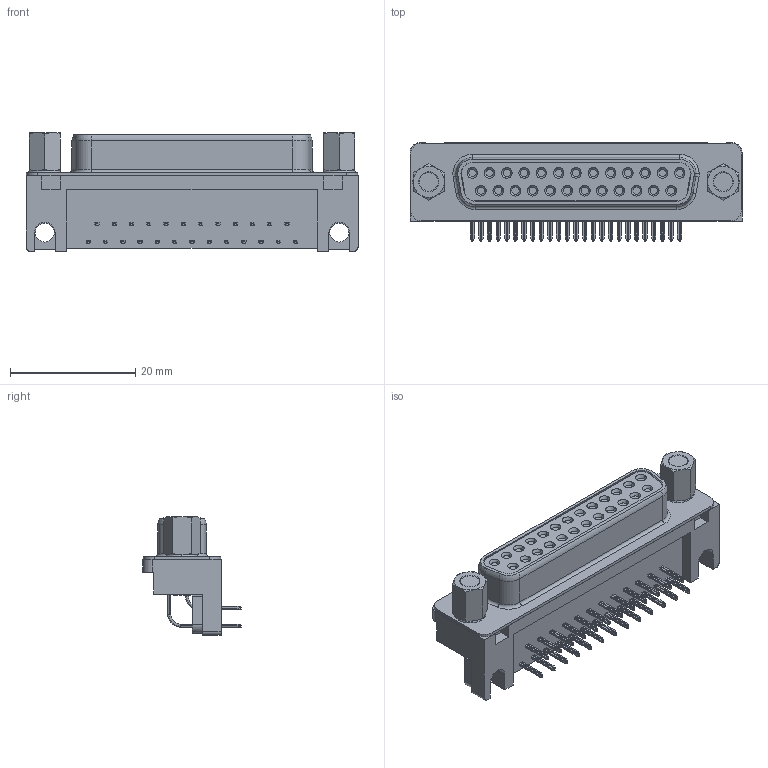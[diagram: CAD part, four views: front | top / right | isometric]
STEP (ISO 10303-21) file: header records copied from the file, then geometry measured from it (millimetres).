
FILE_DESCRIPTION (( 'STEP AP203' ), '1' );
FILE_NAME ('17LE-13250-27(D3BB)-FA.STEP', '2022-02-07T08:54:13', ( '' ), ( '' ), 'SwSTEP 2.0', 'SolidWorks 2018', '' );
FILE_SCHEMA (( 'CONFIG_CONTROL_DESIGN' ));
Length unit declared in the file: millimetre
Products named in the file (1): 17LE-13250-27(D3BB)-FA
Bounding box: 53.04 x 15.7 x 19 mm (x, y, z)
Volume: 5917.7 mm3; surface area: 6070 mm2
Topology: 1 solids, 5 shells, 1438 faces, 3799 edges, 2430 vertices
Faces by surface type: plane 696, cylinder 521, torus 150, cone 71
Entity records: 45448 total; most frequent: CARTESIAN_POINT 8956, DIRECTION 7783, ORIENTED_EDGE 7598, EDGE_CURVE 3799, AXIS2_PLACEMENT_3D 2733, VERTEX_POINT 2430, LINE 2317, VECTOR 2317
